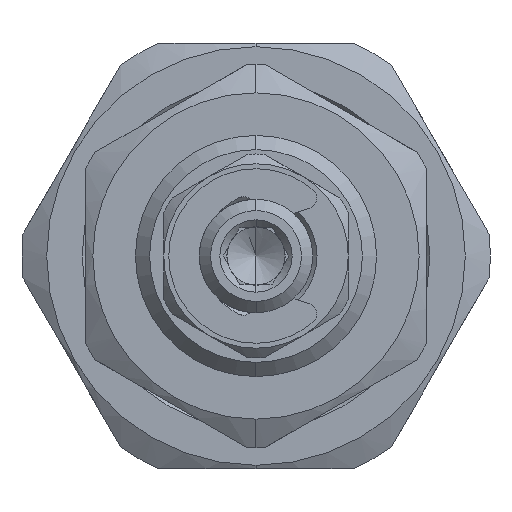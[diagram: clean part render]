
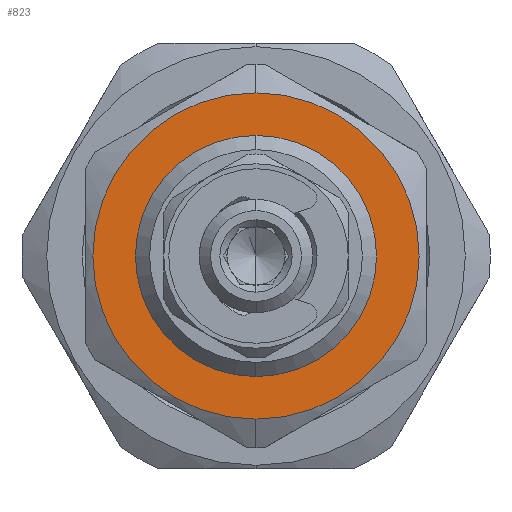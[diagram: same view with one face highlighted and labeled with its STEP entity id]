
A CAD part, left-side view. The second image highlights one B-rep face of the part: STEP entity #823.
In plain terms, the highlighted planar face has unit normal (-1, 0, 0).
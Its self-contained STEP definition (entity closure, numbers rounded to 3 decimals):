
#138 = DIRECTION ( 'NONE',  ( -1., 0., 0. ) ) ;
#244 = EDGE_CURVE ( 'NONE', #3656, #10111, #10189, .T. ) ;
#265 = EDGE_CURVE ( 'NONE', #1777, #10603, #1020, .T. ) ;
#289 = CARTESIAN_POINT ( 'NONE',  ( -36.5, 8.5, 0. ) ) ;
#823 = ADVANCED_FACE ( 'NONE', ( #5427, #4636 ), #7983, .F. ) ;
#880 = DIRECTION ( 'NONE',  ( -1., 0., 0. ) ) ;
#1020 = CIRCLE ( 'NONE', #5864, 11.5 ) ;
#1171 = DIRECTION ( 'NONE',  ( 0., 0., -1. ) ) ;
#1777 = VERTEX_POINT ( 'NONE', #10295 ) ;
#2646 = CARTESIAN_POINT ( 'NONE',  ( -36.5, 0., 11.5 ) ) ;
#2823 = ORIENTED_EDGE ( 'NONE', *, *, #3293, .F. ) ;
#3293 = EDGE_CURVE ( 'NONE', #10111, #3656, #10739, .T. ) ;
#3656 = VERTEX_POINT ( 'NONE', #10668 ) ;
#3797 = AXIS2_PLACEMENT_3D ( 'NONE', #5993, #880, #6862 ) ;
#4187 = AXIS2_PLACEMENT_3D ( 'NONE', #5290, #138, #6136 ) ;
#4485 = CARTESIAN_POINT ( 'NONE',  ( -36.5, 0., 0. ) ) ;
#4636 = FACE_OUTER_BOUND ( 'NONE', #5342, .T. ) ;
#4840 = CARTESIAN_POINT ( 'NONE',  ( -36.5, 0., 0. ) ) ;
#5290 = CARTESIAN_POINT ( 'NONE',  ( -36.5, 0., 0. ) ) ;
#5325 = DIRECTION ( 'NONE',  ( 0., 0., 1. ) ) ;
#5342 = EDGE_LOOP ( 'NONE', ( #7887, #8487 ) ) ;
#5427 = FACE_BOUND ( 'NONE', #10166, .T. ) ;
#5466 = ORIENTED_EDGE ( 'NONE', *, *, #244, .F. ) ;
#5684 = DIRECTION ( 'NONE',  ( 0., 0., 1. ) ) ;
#5864 = AXIS2_PLACEMENT_3D ( 'NONE', #4485, #10505, #5325 ) ;
#5993 = CARTESIAN_POINT ( 'NONE',  ( -36.5, 0., 0. ) ) ;
#6136 = DIRECTION ( 'NONE',  ( 0., 0., 1. ) ) ;
#6288 = DIRECTION ( 'NONE',  ( 1., 0., 0. ) ) ;
#6862 = DIRECTION ( 'NONE',  ( 0., 0., 1. ) ) ;
#7881 = EDGE_CURVE ( 'NONE', #10603, #1777, #8230, .T. ) ;
#7887 = ORIENTED_EDGE ( 'NONE', *, *, #265, .T. ) ;
#7983 = PLANE ( 'NONE',  #9202 ) ;
#8230 = CIRCLE ( 'NONE', #3797, 11.5 ) ;
#8487 = ORIENTED_EDGE ( 'NONE', *, *, #7881, .T. ) ;
#9202 = AXIS2_PLACEMENT_3D ( 'NONE', #289, #6288, #1171 ) ;
#9446 = CARTESIAN_POINT ( 'NONE',  ( -36.5, 0., 8.5 ) ) ;
#10111 = VERTEX_POINT ( 'NONE', #9446 ) ;
#10166 = EDGE_LOOP ( 'NONE', ( #2823, #5466 ) ) ;
#10189 = CIRCLE ( 'NONE', #4187, 8.5 ) ;
#10295 = CARTESIAN_POINT ( 'NONE',  ( -36.5, 0., -11.5 ) ) ;
#10505 = DIRECTION ( 'NONE',  ( -1., 0., 0. ) ) ;
#10603 = VERTEX_POINT ( 'NONE', #2646 ) ;
#10668 = CARTESIAN_POINT ( 'NONE',  ( -36.5, 0., -8.5 ) ) ;
#10739 = CIRCLE ( 'NONE', #11013, 8.5 ) ;
#10875 = DIRECTION ( 'NONE',  ( -1., 0., 0. ) ) ;
#11013 = AXIS2_PLACEMENT_3D ( 'NONE', #4840, #10875, #5684 ) ;
